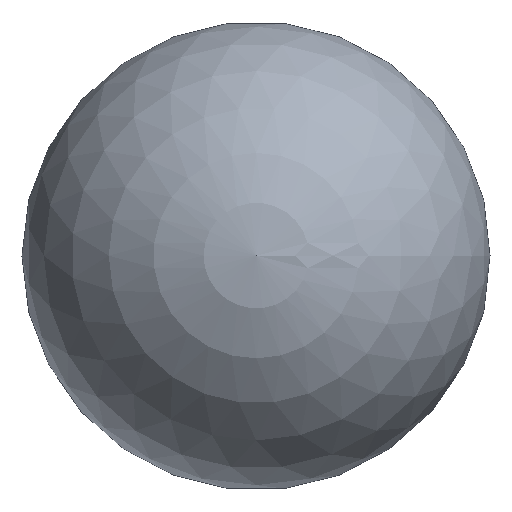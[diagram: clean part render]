
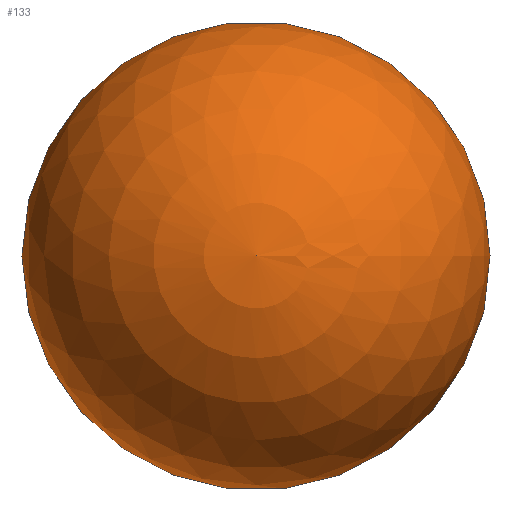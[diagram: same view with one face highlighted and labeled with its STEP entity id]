
A CAD part, top view. The second image highlights one B-rep face of the part: STEP entity #133.
In plain terms, the highlighted spherical face has radius 2.5 mm.
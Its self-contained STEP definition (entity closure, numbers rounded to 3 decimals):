
#31 = CYLINDRICAL_SURFACE('',#32,1.5);
#32 = AXIS2_PLACEMENT_3D('',#33,#34,#35);
#33 = CARTESIAN_POINT('',(0.,0.,24.5));
#34 = DIRECTION('',(-0.,0.,-1.));
#35 = DIRECTION('',(0.,1.,0.));
#56 = VERTEX_POINT('',#57);
#57 = CARTESIAN_POINT('',(0.,1.5,26.5));
#78 = EDGE_CURVE('',#79,#56,#81,.T.);
#79 = VERTEX_POINT('',#80);
#80 = CARTESIAN_POINT('',(1.5,0.,26.5));
#81 = SURFACE_CURVE('',#82,(#87,#94),.PCURVE_S1.);
#82 = CIRCLE('',#83,1.5);
#83 = AXIS2_PLACEMENT_3D('',#84,#85,#86);
#84 = CARTESIAN_POINT('',(0.,0.,26.5));
#85 = DIRECTION('',(-0.,0.,-1.));
#86 = DIRECTION('',(0.,1.,0.));
#87 = PCURVE('',#31,#88);
#88 = DEFINITIONAL_REPRESENTATION('',(#89),#93);
#89 = LINE('',#90,#91);
#90 = CARTESIAN_POINT('',(-6.283,-2.));
#91 = VECTOR('',#92,1.);
#92 = DIRECTION('',(1.,-0.));
#93 = ( GEOMETRIC_REPRESENTATION_CONTEXT(2) 
PARAMETRIC_REPRESENTATION_CONTEXT() REPRESENTATION_CONTEXT('2D SPACE',''
  ) );
#94 = PCURVE('',#95,#100);
#95 = SPHERICAL_SURFACE('',#96,2.5);
#96 = AXIS2_PLACEMENT_3D('',#97,#98,#99);
#97 = CARTESIAN_POINT('',(0.,0.,28.5));
#98 = DIRECTION('',(0.,0.,1.));
#99 = DIRECTION('',(1.,0.,0.));
#100 = DEFINITIONAL_REPRESENTATION('',(#101),#105);
#101 = LINE('',#102,#103);
#102 = CARTESIAN_POINT('',(7.854,-0.927));
#103 = VECTOR('',#104,1.);
#104 = DIRECTION('',(-1.,0.));
#105 = ( GEOMETRIC_REPRESENTATION_CONTEXT(2) 
PARAMETRIC_REPRESENTATION_CONTEXT() REPRESENTATION_CONTEXT('2D SPACE',''
  ) );
#107 = EDGE_CURVE('',#56,#79,#108,.T.);
#108 = SURFACE_CURVE('',#109,(#114,#121),.PCURVE_S1.);
#109 = CIRCLE('',#110,1.5);
#110 = AXIS2_PLACEMENT_3D('',#111,#112,#113);
#111 = CARTESIAN_POINT('',(0.,0.,26.5));
#112 = DIRECTION('',(-0.,0.,-1.));
#113 = DIRECTION('',(0.,1.,0.));
#114 = PCURVE('',#31,#115);
#115 = DEFINITIONAL_REPRESENTATION('',(#116),#120);
#116 = LINE('',#117,#118);
#117 = CARTESIAN_POINT('',(-6.283,-2.));
#118 = VECTOR('',#119,1.);
#119 = DIRECTION('',(1.,-0.));
#120 = ( GEOMETRIC_REPRESENTATION_CONTEXT(2) 
PARAMETRIC_REPRESENTATION_CONTEXT() REPRESENTATION_CONTEXT('2D SPACE',''
  ) );
#121 = PCURVE('',#95,#122);
#122 = DEFINITIONAL_REPRESENTATION('',(#123),#127);
#123 = LINE('',#124,#125);
#124 = CARTESIAN_POINT('',(1.571,-0.927));
#125 = VECTOR('',#126,1.);
#126 = DIRECTION('',(-1.,0.));
#127 = ( GEOMETRIC_REPRESENTATION_CONTEXT(2) 
PARAMETRIC_REPRESENTATION_CONTEXT() REPRESENTATION_CONTEXT('2D SPACE',''
  ) );
#133 = ADVANCED_FACE('',(#134),#95,.T.);
#134 = FACE_BOUND('',#135,.T.);
#135 = EDGE_LOOP('',(#136,#160,#161,#162));
#136 = ORIENTED_EDGE('',*,*,#137,.T.);
#137 = EDGE_CURVE('',#79,#138,#140,.T.);
#138 = VERTEX_POINT('',#139);
#139 = CARTESIAN_POINT('',(0.,0.,31.));
#140 = SEAM_CURVE('',#141,(#146,#153),.PCURVE_S1.);
#141 = CIRCLE('',#142,2.5);
#142 = AXIS2_PLACEMENT_3D('',#143,#144,#145);
#143 = CARTESIAN_POINT('',(0.,0.,28.5));
#144 = DIRECTION('',(0.,-1.,0.));
#145 = DIRECTION('',(1.,0.,0.));
#146 = PCURVE('',#95,#147);
#147 = DEFINITIONAL_REPRESENTATION('',(#148),#152);
#148 = LINE('',#149,#150);
#149 = CARTESIAN_POINT('',(6.283,-6.283));
#150 = VECTOR('',#151,1.);
#151 = DIRECTION('',(0.,1.));
#152 = ( GEOMETRIC_REPRESENTATION_CONTEXT(2) 
PARAMETRIC_REPRESENTATION_CONTEXT() REPRESENTATION_CONTEXT('2D SPACE',''
  ) );
#153 = PCURVE('',#95,#154);
#154 = DEFINITIONAL_REPRESENTATION('',(#155),#159);
#155 = LINE('',#156,#157);
#156 = CARTESIAN_POINT('',(0.,-6.283));
#157 = VECTOR('',#158,1.);
#158 = DIRECTION('',(0.,1.));
#159 = ( GEOMETRIC_REPRESENTATION_CONTEXT(2) 
PARAMETRIC_REPRESENTATION_CONTEXT() REPRESENTATION_CONTEXT('2D SPACE',''
  ) );
#160 = ORIENTED_EDGE('',*,*,#137,.F.);
#161 = ORIENTED_EDGE('',*,*,#107,.F.);
#162 = ORIENTED_EDGE('',*,*,#78,.F.);
